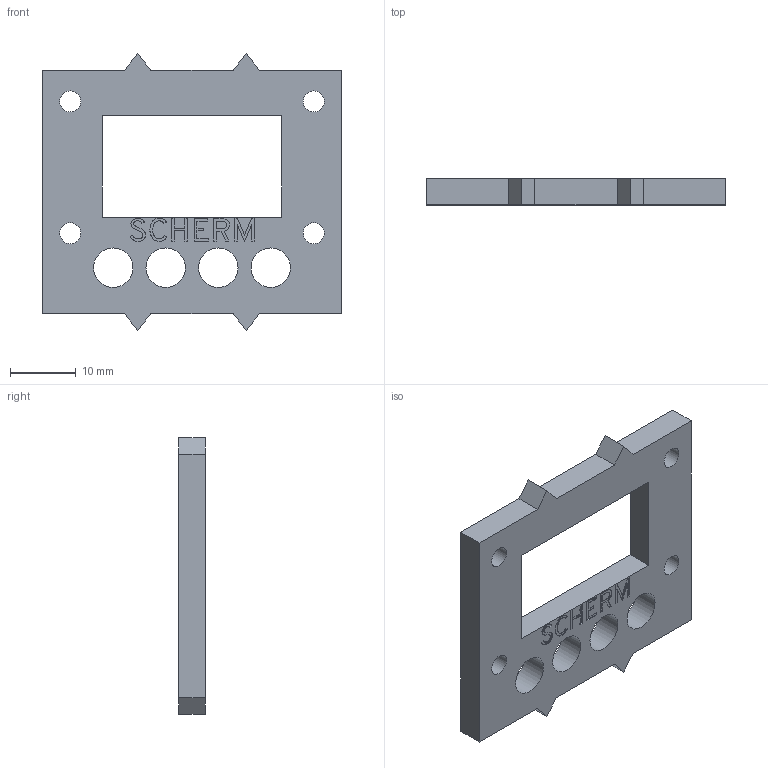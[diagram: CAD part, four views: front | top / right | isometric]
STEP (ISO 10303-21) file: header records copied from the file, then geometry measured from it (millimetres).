
FILE_DESCRIPTION(('FreeCAD Model'),'2;1');
FILE_NAME('Open CASCADE Shape Model','2024-06-26T11:40:24',('FreeCAD'),( 'FreeCAD'),'Open CASCADE STEP processor 7.6','FreeCAD','Unknown');
FILE_SCHEMA(('AUTOMOTIVE_DESIGN { 1 0 10303 214 1 1 1 1 }'));
Length unit declared in the file: millimetre
Products named in the file (1): Open CASCADE STEP translator 7.6 6
Bounding box: 45.5 x 4 x 42 mm (x, y, z)
Volume: 4540.4 mm3; surface area: 3785.1 mm2
Topology: 1 solids, 1 shells, 173 faces, 492 edges, 328 vertices
Faces by surface type: extrusion 85, plane 80, cylinder 8
Full cylindrical faces by diameter (mm): 3.2 x4, 6 x4
Entity records: 5738 total; most frequent: CARTESIAN_POINT 1504, ORIENTED_EDGE 984, DIRECTION 601, EDGE_CURVE 492, VECTOR 391, VERTEX_POINT 328, LINE 306, B_SPLINE_CURVE_WITH_KNOTS 255
